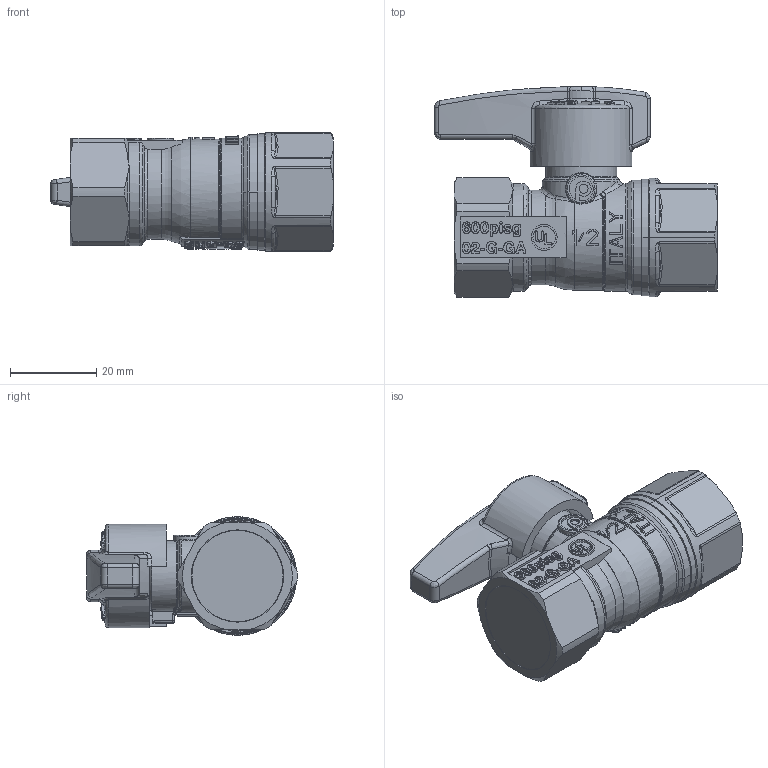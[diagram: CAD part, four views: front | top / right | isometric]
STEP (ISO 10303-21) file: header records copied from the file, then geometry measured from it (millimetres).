
FILE_DESCRIPTION((''),'2;1');
FILE_NAME('T204TD_1-2_ASM','2022-05-19T16:14:39',('Sergio.Dandrea'),(''),'CREO PARAMETRIC BY PTC INC, 2021164','CREO PARAMETRIC BY PTC INC, 2021164','');
FILE_SCHEMA(('CONFIG_CONTROL_DESIGN'));
Products named in the file (8): 89125; 89085; 87057; 88402; SEDE_PTFE_F12; 90006; 87131; T204TD_1-2_ASM
Assembly tree (8 placements, depth 2):
  T204TD_1-2_ASM
    89125
    89085
    87057
    88402
    SEDE_PTFE_F12  x2
    90006
    87131
Bounding box: 65.6 x 48.9 x 27.5 mm (x, y, z)
Volume: 27852.9 mm3; surface area: 23949.8 mm2
Topology: 8 solids, 15 shells, 1658 faces, 4381 edges, 2828 vertices
Faces by surface type: bspline 664, plane 328, extrusion 275, cylinder 183, cone 94, torus 78, sphere 36
Entity records: 76991 total; most frequent: CARTESIAN_POINT 40979, ORIENTED_EDGE 8665, DIRECTION 5168, EDGE_CURVE 4351, VERTEX_POINT 2812, B_SPLINE_CURVE_WITH_KNOTS 2090, VECTOR 1912, EDGE_LOOP 1744
